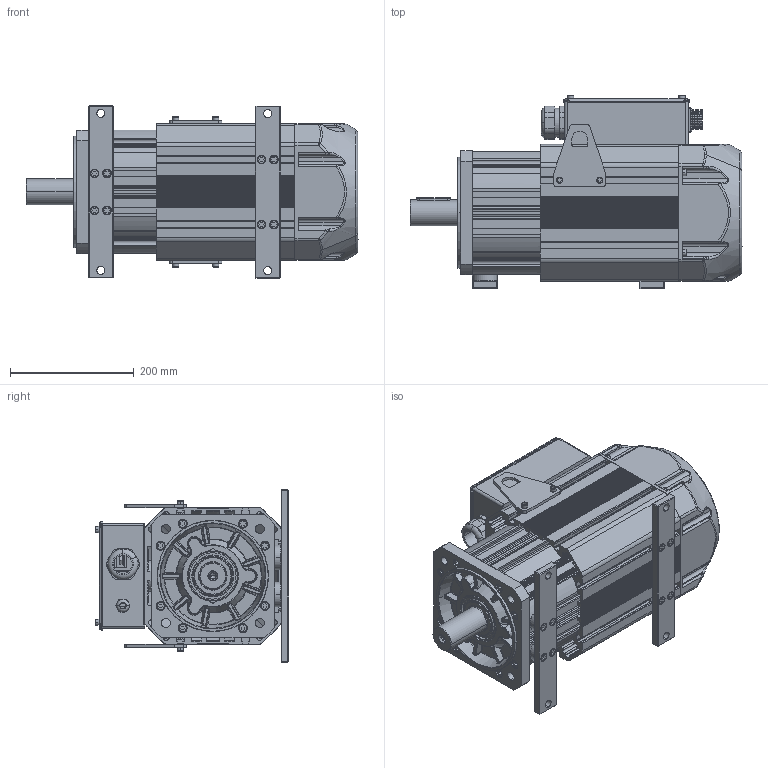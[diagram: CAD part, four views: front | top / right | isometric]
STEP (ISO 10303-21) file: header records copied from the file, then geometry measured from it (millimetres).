
FILE_DESCRIPTION((''),'2;1');
FILE_NAME('120N__SW0001','2025-08-25T08:52:12',('0109502'),(''),'CREO PARAMETRIC BY PTC INC, 2019080','CREO PARAMETRIC BY PTC INC, 2019080','');
FILE_SCHEMA(('CONFIG_CONTROL_DESIGN'));
Products named in the file (1): 120N__SW0001
Bounding box: 537 x 312.5 x 278.25 mm (x, y, z)
Surface area: 1677159.9 mm2 (no closed solid volume)
Topology: 0 solids, 196 shells, 3378 faces, 11539 edges, 8182 vertices
Faces by surface type: plane 1536, cylinder 1158, torus 262, bspline 204, cone 184, sphere 34
Entity records: 140849 total; most frequent: CARTESIAN_POINT 41167, DIRECTION 21135, ORIENTED_EDGE 19071, EDGE_CURVE 11519, VERTEX_POINT 8182, AXIS2_PLACEMENT_3D 7252, VECTOR 6631, LINE 6631
